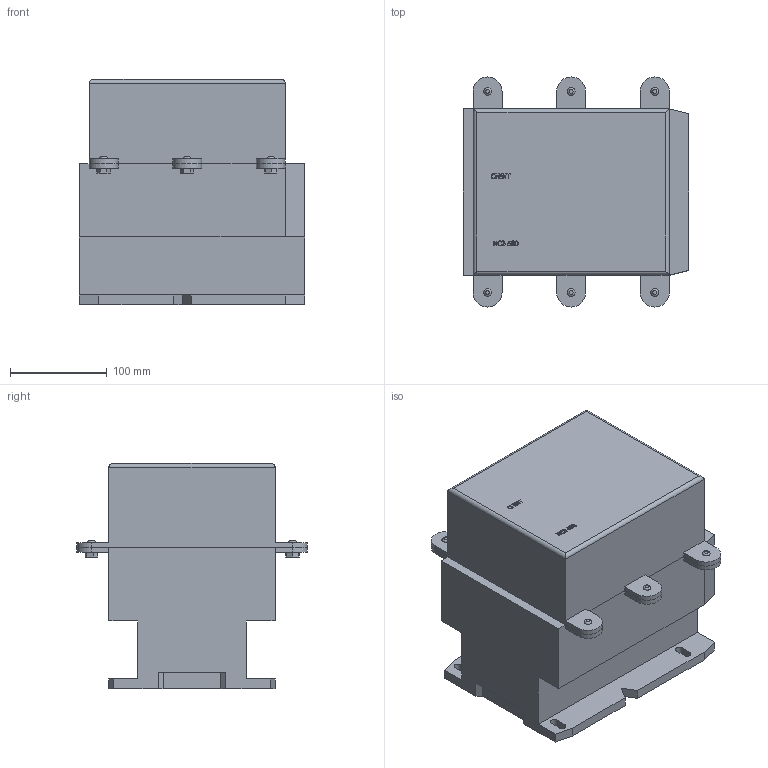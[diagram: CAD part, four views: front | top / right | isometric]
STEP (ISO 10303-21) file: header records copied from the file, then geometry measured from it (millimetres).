
FILE_DESCRIPTION(/* description */ (''),/* implementation_level */ '2;1');
FILE_NAME(/* name */ 'D:\CHINT2\NC2\NC2-500 230В 50Гц.stp',/* time_stamp */ '2017-11-12T20:57:26+03:00',/* author */ ('RSagdiev'),/* organization */ (''),/* preprocessor_version */ 'ST-DEVELOPER v16.5',/* originating_system */ 'Autodesk Inventor 2017',/* authorisation */ '');
FILE_SCHEMA (('AUTOMOTIVE_DESIGN { 1 0 10303 214 3 1 1 }'));
Length unit declared in the file: millimetre
Products named in the file (1): NC2-500 230В 50Гц
Bounding box: 233 x 238 x 233.1 mm (x, y, z)
Volume: 8076482.7 mm3; surface area: 380401.4 mm2
Topology: 14 solids, 14 shells, 341 faces, 903 edges, 604 vertices
Faces by surface type: plane 231, bspline 86, cylinder 24
Entity records: 11331 total; most frequent: CARTESIAN_POINT 3295, ORIENTED_EDGE 1806, DIRECTION 1317, EDGE_CURVE 903, LINE 669, VECTOR 669, VERTEX_POINT 604, EDGE_LOOP 363
